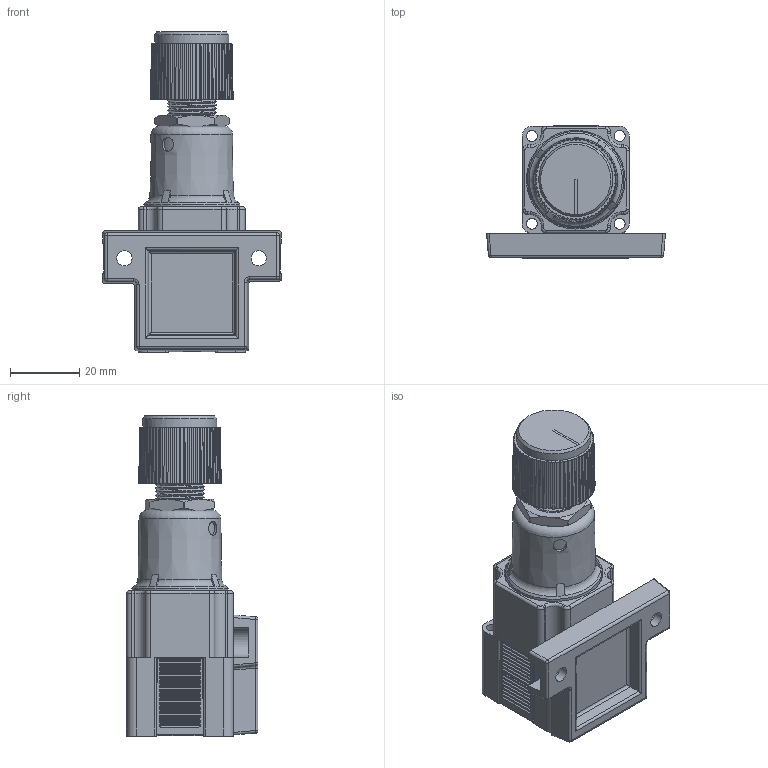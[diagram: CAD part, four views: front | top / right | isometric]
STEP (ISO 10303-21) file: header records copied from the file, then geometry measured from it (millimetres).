
FILE_DESCRIPTION(/* description */ (''),/* implementation_level */ '2;1');
FILE_NAME(/* name */ 'K:\Normteile INVENTOR\Air-Logic\Regulators\NR4000\NR 4___ W Wall Mounting Dovetail Bracket.igs.ipt.stp',/* time_stamp */ '2020-05-27T10:51:55+02:00',/* author */ ('Paul'),/* organization */ (''),/* preprocessor_version */ 'ST-DEVELOPER v18',/* originating_system */ 'Autodesk Inventor 2020',/* authorisation */ '');
FILE_SCHEMA (('AUTOMOTIVE_DESIGN { 1 0 10303 214 3 1 1 }'));
Length unit declared in the file: inch
Products named in the file (1): NR 4___ W Wall Mounting Dovetail Bracket.igs
Bounding box: 51.8 x 38.2 x 92.65 mm (x, y, z)
Volume: 61096.5 mm3; surface area: 21506.4 mm2
Topology: 1 solids, 1 shells, 925 faces, 2374 edges, 1503 vertices
Faces by surface type: plane 445, cylinder 349, cone 81, bspline 25, torus 19, sphere 6
Full cylindrical faces by diameter (mm): 3.175 x4, 3.988 x1, 4.039 x1, 4.064 x1, 4.445 x2, 14.288 x2, 19.406 x1, 21.476 x1, 26.264 x1, 27.94 x1, 28.575 x1
Entity records: 36678 total; most frequent: CARTESIAN_POINT 12686, DIRECTION 5042, ORIENTED_EDGE 4748, EDGE_CURVE 2374, AXIS2_PLACEMENT_3D 1934, VERTEX_POINT 1503, LINE 1174, VECTOR 1174
